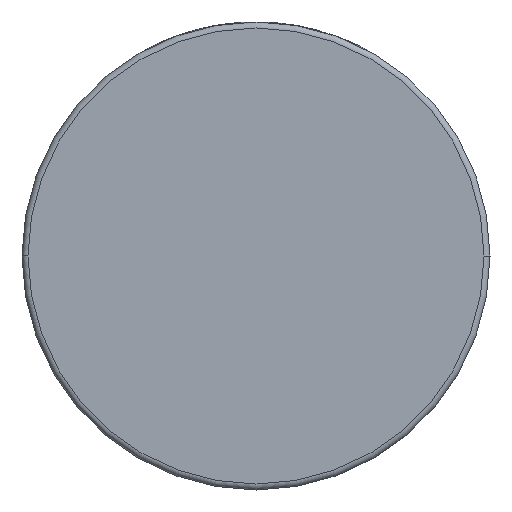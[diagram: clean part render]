
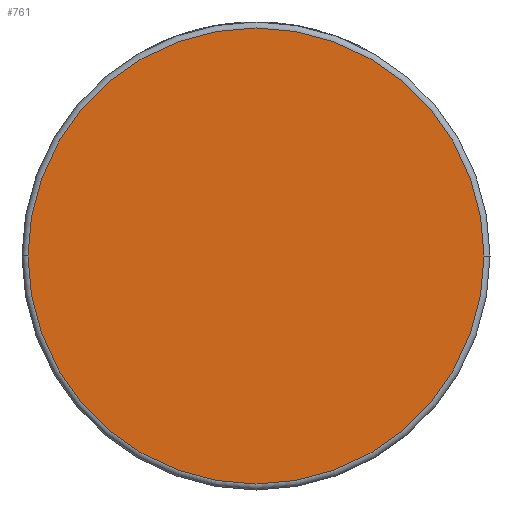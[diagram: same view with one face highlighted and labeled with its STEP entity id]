
A CAD part, front view. The second image highlights one B-rep face of the part: STEP entity #761.
In plain terms, the highlighted planar face has unit normal (0, -1, 0).
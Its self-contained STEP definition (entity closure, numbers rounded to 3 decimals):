
#25 = EDGE_CURVE ( 'NONE', #1500, #44, #4054, .T. ) ;
#44 = VERTEX_POINT ( 'NONE', #1271 ) ;
#265 = CIRCLE ( 'NONE', #3356, 38. ) ;
#491 = DIRECTION ( 'NONE',  ( 0., -1., 0. ) ) ;
#561 = DIRECTION ( 'NONE',  ( 0., -1., 0. ) ) ;
#695 = CARTESIAN_POINT ( 'NONE',  ( 0., -26.5, 0. ) ) ;
#746 = AXIS2_PLACEMENT_3D ( 'NONE', #3196, #561, #3616 ) ;
#761 = ADVANCED_FACE ( 'NONE', ( #3821 ), #814, .T. ) ;
#773 = ORIENTED_EDGE ( 'NONE', *, *, #2232, .T. ) ;
#814 = PLANE ( 'NONE',  #1158 ) ;
#1158 = AXIS2_PLACEMENT_3D ( 'NONE', #3499, #491, #1829 ) ;
#1271 = CARTESIAN_POINT ( 'NONE',  ( 38., -26.5, 0. ) ) ;
#1500 = VERTEX_POINT ( 'NONE', #2677 ) ;
#1511 = ORIENTED_EDGE ( 'NONE', *, *, #25, .T. ) ;
#1778 = DIRECTION ( 'NONE',  ( 0., -1., 0. ) ) ;
#1829 = DIRECTION ( 'NONE',  ( 1., 0., 0. ) ) ;
#2043 = DIRECTION ( 'NONE',  ( 1., 0., 0. ) ) ;
#2232 = EDGE_CURVE ( 'NONE', #44, #1500, #265, .T. ) ;
#2657 = EDGE_LOOP ( 'NONE', ( #773, #1511 ) ) ;
#2677 = CARTESIAN_POINT ( 'NONE',  ( -38., -26.5, 0. ) ) ;
#3196 = CARTESIAN_POINT ( 'NONE',  ( 0., -26.5, 0. ) ) ;
#3356 = AXIS2_PLACEMENT_3D ( 'NONE', #695, #1778, #2043 ) ;
#3499 = CARTESIAN_POINT ( 'NONE',  ( 39., -26.5, 0. ) ) ;
#3616 = DIRECTION ( 'NONE',  ( 1., 0., 0. ) ) ;
#3821 = FACE_OUTER_BOUND ( 'NONE', #2657, .T. ) ;
#4054 = CIRCLE ( 'NONE', #746, 38. ) ;
